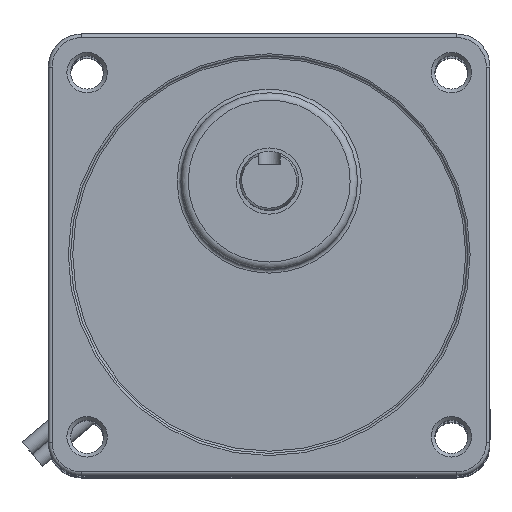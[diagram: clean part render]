
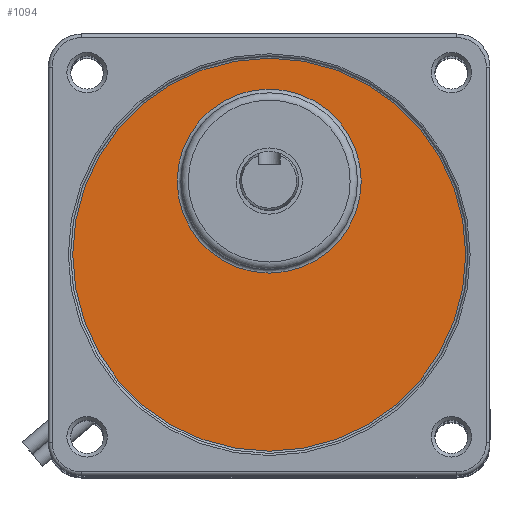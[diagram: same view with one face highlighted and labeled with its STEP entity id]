
A CAD part, top view. The second image highlights one B-rep face of the part: STEP entity #1094.
In plain terms, the highlighted planar face has unit normal (0, 0, 1).
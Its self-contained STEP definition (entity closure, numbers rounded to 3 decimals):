
#1043=CARTESIAN_POINT('',(47.5,70.,169.7));
#1044=VERTEX_POINT('',#1043);
#1045=CARTESIAN_POINT('',(60.,70.,169.7));
#1046=DIRECTION('',(0.0,0.0,1.0));
#1047=DIRECTION('',(1.0,0.0,0.0));
#1048=AXIS2_PLACEMENT_3D('',#1045,#1046,#1047);
#1049=CIRCLE('',#1048,12.5);
#1050=EDGE_CURVE('',#1044,#1044,#1049,.T.);
#1075=CARTESIAN_POINT('',(60.,60.,169.7));
#1076=DIRECTION('',(0.0,0.0,-1.0));
#1077=DIRECTION('',(1.0,0.0,0.0));
#1078=AXIS2_PLACEMENT_3D('',#1075,#1076,#1077);
#1079=PLANE('',#1078);
#1080=CARTESIAN_POINT('',(33.301,60.,169.7));
#1081=VERTEX_POINT('',#1080);
#1082=CARTESIAN_POINT('',(60.,60.,169.7));
#1083=DIRECTION('',(0.0,0.0,-1.0));
#1084=DIRECTION('',(1.0,0.0,0.0));
#1085=AXIS2_PLACEMENT_3D('',#1082,#1083,#1084);
#1086=CIRCLE('',#1085,26.699);
#1087=EDGE_CURVE('',#1081,#1081,#1086,.T.);
#1088=ORIENTED_EDGE('',*,*,#1087,.F.);
#1089=EDGE_LOOP('',(#1088));
#1090=FACE_OUTER_BOUND('',#1089,.T.);
#1091=ORIENTED_EDGE('',*,*,#1050,.F.);
#1092=EDGE_LOOP('',(#1091));
#1093=FACE_BOUND('',#1092,.T.);
#1094=ADVANCED_FACE('',(#1090,#1093),#1079,.F.);
